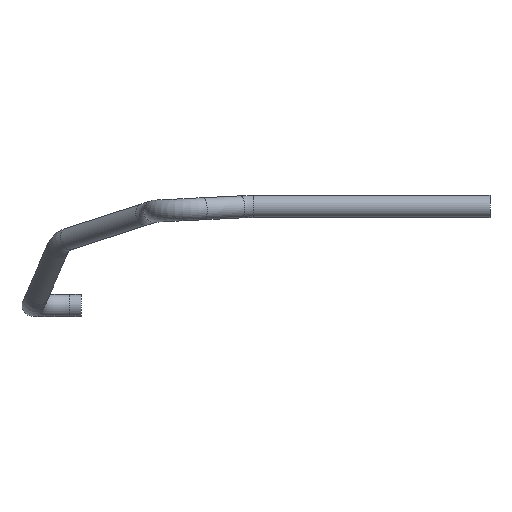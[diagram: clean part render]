
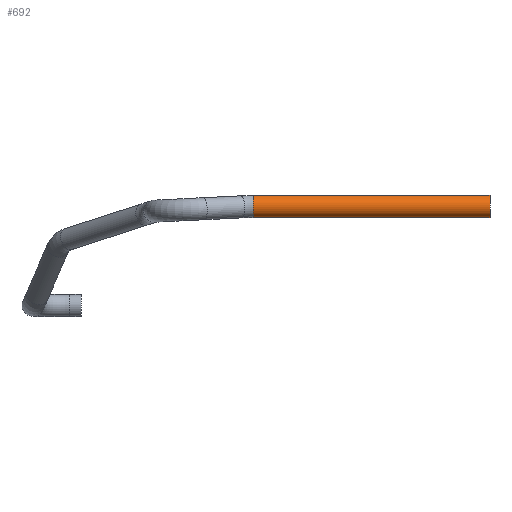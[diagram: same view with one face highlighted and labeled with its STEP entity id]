
A CAD part, front view. The second image highlights one B-rep face of the part: STEP entity #692.
In plain terms, the highlighted cylindrical face has radius 0.6 mm (diameter 1.2 mm), a full revolution.
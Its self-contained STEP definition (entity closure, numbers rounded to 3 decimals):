
#626 = TOROIDAL_SURFACE('',#627,2.,0.6);
#627 = AXIS2_PLACEMENT_3D('',#628,#629,#630);
#628 = CARTESIAN_POINT('',(-20.666,-32.979,
    -4.291));
#629 = DIRECTION('',(0.,0.145,-0.989));
#630 = DIRECTION('',(-0.325,0.936,0.138));
#643 = VERTEX_POINT('',#644);
#644 = CARTESIAN_POINT('',(-20.666,-31.171,
    -4.575));
#665 = EDGE_CURVE('',#643,#643,#666,.T.);
#666 = SURFACE_CURVE('',#667,(#672,#679),.PCURVE_S1.);
#667 = CIRCLE('',#668,0.6);
#668 = AXIS2_PLACEMENT_3D('',#669,#670,#671);
#669 = CARTESIAN_POINT('',(-20.666,-31.,-4.));
#670 = DIRECTION('',(-1.,0.,0.));
#671 = DIRECTION('',(0.,0.989,0.145));
#672 = PCURVE('',#626,#673);
#673 = DEFINITIONAL_REPRESENTATION('',(#674),#678);
#674 = LINE('',#675,#676);
#675 = CARTESIAN_POINT('',(0.331,0.));
#676 = VECTOR('',#677,1.);
#677 = DIRECTION('',(0.,1.));
#678 = ( GEOMETRIC_REPRESENTATION_CONTEXT(2) 
PARAMETRIC_REPRESENTATION_CONTEXT() REPRESENTATION_CONTEXT('2D SPACE',''
  ) );
#679 = PCURVE('',#680,#685);
#680 = CYLINDRICAL_SURFACE('',#681,0.6);
#681 = AXIS2_PLACEMENT_3D('',#682,#683,#684);
#682 = CARTESIAN_POINT('',(-20.666,-31.,-4.));
#683 = DIRECTION('',(1.,0.,0.));
#684 = DIRECTION('',(0.,-0.286,-0.958));
#685 = DEFINITIONAL_REPRESENTATION('',(#686),#689);
#686 = B_SPLINE_CURVE_WITH_KNOTS('',1,(#687,#688),.UNSPECIFIED.,.F.,.F.,
  (2,2),(2.007,8.29),.PIECEWISE_BEZIER_KNOTS.);
#687 = CARTESIAN_POINT('',(6.283,0.));
#688 = CARTESIAN_POINT('',(0.,0.));
#689 = ( GEOMETRIC_REPRESENTATION_CONTEXT(2) 
PARAMETRIC_REPRESENTATION_CONTEXT() REPRESENTATION_CONTEXT('2D SPACE',''
  ) );
#692 = ADVANCED_FACE('',(#693),#680,.T.);
#693 = FACE_BOUND('',#694,.T.);
#694 = EDGE_LOOP('',(#695,#717,#744,#745));
#695 = ORIENTED_EDGE('',*,*,#696,.T.);
#696 = EDGE_CURVE('',#643,#697,#699,.T.);
#697 = VERTEX_POINT('',#698);
#698 = CARTESIAN_POINT('',(-7.832,-31.171,
    -4.575));
#699 = SEAM_CURVE('',#700,(#704,#710),.PCURVE_S1.);
#700 = LINE('',#701,#702);
#701 = CARTESIAN_POINT('',(-20.666,-31.171,
    -4.575));
#702 = VECTOR('',#703,1.);
#703 = DIRECTION('',(1.,0.,0.));
#704 = PCURVE('',#680,#705);
#705 = DEFINITIONAL_REPRESENTATION('',(#706),#709);
#706 = B_SPLINE_CURVE_WITH_KNOTS('',1,(#707,#708),.UNSPECIFIED.,.F.,.F.,
  (2,2),(0.,12.834),.PIECEWISE_BEZIER_KNOTS.);
#707 = CARTESIAN_POINT('',(6.283,0.));
#708 = CARTESIAN_POINT('',(6.283,12.834));
#709 = ( GEOMETRIC_REPRESENTATION_CONTEXT(2) 
PARAMETRIC_REPRESENTATION_CONTEXT() REPRESENTATION_CONTEXT('2D SPACE',''
  ) );
#710 = PCURVE('',#680,#711);
#711 = DEFINITIONAL_REPRESENTATION('',(#712),#716);
#712 = LINE('',#713,#714);
#713 = CARTESIAN_POINT('',(0.,0.));
#714 = VECTOR('',#715,1.);
#715 = DIRECTION('',(0.,1.));
#716 = ( GEOMETRIC_REPRESENTATION_CONTEXT(2) 
PARAMETRIC_REPRESENTATION_CONTEXT() REPRESENTATION_CONTEXT('2D SPACE',''
  ) );
#717 = ORIENTED_EDGE('',*,*,#718,.F.);
#718 = EDGE_CURVE('',#697,#697,#719,.T.);
#719 = SURFACE_CURVE('',#720,(#725,#732),.PCURVE_S1.);
#720 = CIRCLE('',#721,0.6);
#721 = AXIS2_PLACEMENT_3D('',#722,#723,#724);
#722 = CARTESIAN_POINT('',(-7.832,-31.,-4.));
#723 = DIRECTION('',(1.,0.,0.));
#724 = DIRECTION('',(0.,-0.286,-0.958));
#725 = PCURVE('',#680,#726);
#726 = DEFINITIONAL_REPRESENTATION('',(#727),#731);
#727 = LINE('',#728,#729);
#728 = CARTESIAN_POINT('',(0.,12.834));
#729 = VECTOR('',#730,1.);
#730 = DIRECTION('',(1.,0.));
#731 = ( GEOMETRIC_REPRESENTATION_CONTEXT(2) 
PARAMETRIC_REPRESENTATION_CONTEXT() REPRESENTATION_CONTEXT('2D SPACE',''
  ) );
#732 = PCURVE('',#733,#738);
#733 = PLANE('',#734);
#734 = AXIS2_PLACEMENT_3D('',#735,#736,#737);
#735 = CARTESIAN_POINT('',(-7.832,-31.,-4.));
#736 = DIRECTION('',(1.,0.,0.));
#737 = DIRECTION('',(-0.,0.,1.));
#738 = DEFINITIONAL_REPRESENTATION('',(#739),#743);
#739 = CIRCLE('',#740,0.6);
#740 = AXIS2_PLACEMENT_2D('',#741,#742);
#741 = CARTESIAN_POINT('',(0.,0.));
#742 = DIRECTION('',(-0.958,0.286));
#743 = ( GEOMETRIC_REPRESENTATION_CONTEXT(2) 
PARAMETRIC_REPRESENTATION_CONTEXT() REPRESENTATION_CONTEXT('2D SPACE',''
  ) );
#744 = ORIENTED_EDGE('',*,*,#696,.F.);
#745 = ORIENTED_EDGE('',*,*,#665,.F.);
